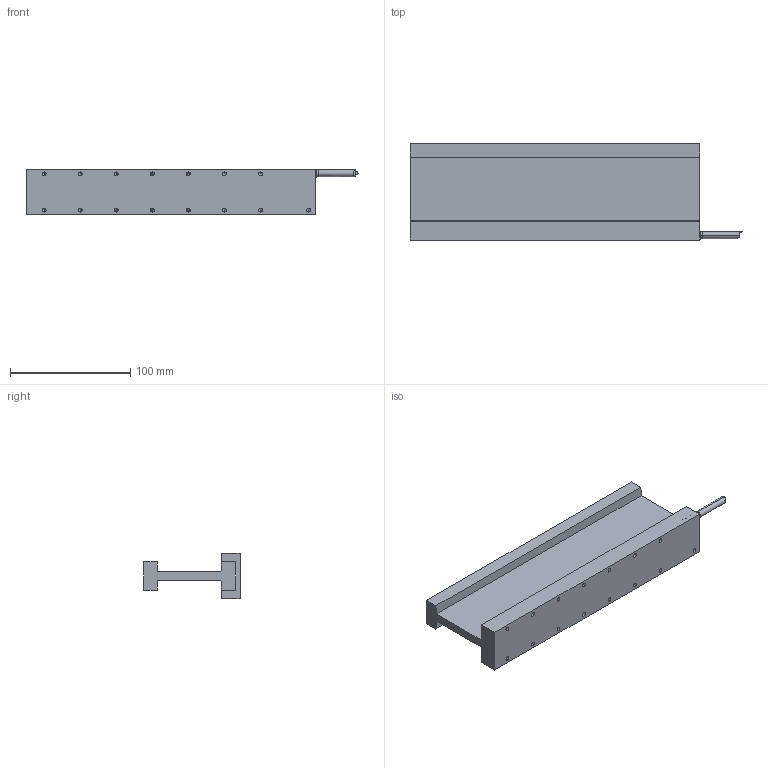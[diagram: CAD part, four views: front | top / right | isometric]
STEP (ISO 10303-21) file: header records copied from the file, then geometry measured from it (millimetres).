
FILE_DESCRIPTION (( 'STEP AP214' ), '1' );
FILE_NAME ('DX50F-C4-NH -REV00.step', '2022-05-06T02:57:15', ( '' ), ( '' ), 'SwSTEP 2.0', 'SolidWorks 2020', '' );
FILE_SCHEMA (( 'AUTOMOTIVE_DESIGN' ));
Length unit declared in the file: millimetre
Products named in the file (1): DX50F-C4-NH -REV00
Bounding box: 276 x 80 x 38.2 mm (x, y, z)
Volume: 296530.8 mm3; surface area: 92696.7 mm2
Topology: 3 solids, 3 shells, 117 faces, 288 edges, 164 vertices
Faces by surface type: cylinder 46, plane 37, cone 32, torus 2
Entity records: 4546 total; most frequent: DIRECTION 576, CARTESIAN_POINT 565, ORIENTED_EDGE 512, EDGE_CURVE 256, AXIS2_PLACEMENT_3D 211, VERTEX_POINT 164, VECTOR 154, LINE 154
